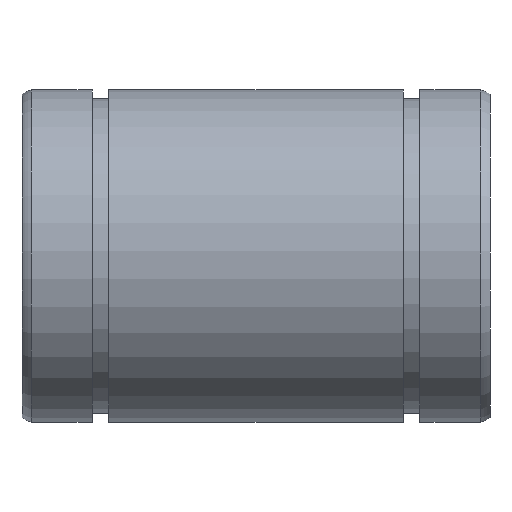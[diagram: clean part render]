
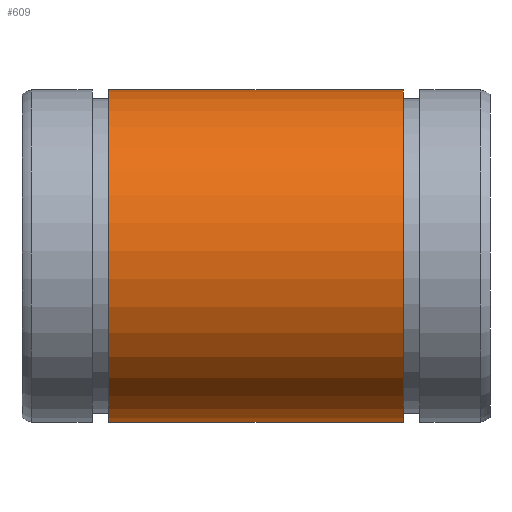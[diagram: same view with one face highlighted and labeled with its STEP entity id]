
A CAD part, front view. The second image highlights one B-rep face of the part: STEP entity #609.
In plain terms, the highlighted cylindrical face has radius 16 mm (diameter 32 mm), a partial arc.
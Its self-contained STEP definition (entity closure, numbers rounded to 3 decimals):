
#174=CARTESIAN_POINT('',(8.35,1.,-15.969));
#175=VERTEX_POINT('',#174);
#182=CARTESIAN_POINT('',(36.65,1.,-15.969));
#183=VERTEX_POINT('',#182);
#184=CARTESIAN_POINT('',(36.65,1.,-15.969));
#185=DIRECTION('',(-1.0,0.0,0.0));
#186=VECTOR('',#185,28.3);
#187=LINE('',#184,#186);
#188=EDGE_CURVE('',#183,#175,#187,.T.);
#230=CARTESIAN_POINT('',(36.65,-1.,-15.969));
#231=VERTEX_POINT('',#230);
#238=CARTESIAN_POINT('',(8.35,-1.,-15.969));
#239=VERTEX_POINT('',#238);
#240=CARTESIAN_POINT('',(8.35,-1.,-15.969));
#241=DIRECTION('',(1.0,0.0,0.0));
#242=VECTOR('',#241,28.3);
#243=LINE('',#240,#242);
#244=EDGE_CURVE('',#239,#231,#243,.T.);
#582=CARTESIAN_POINT('',(36.65,0.0,0.));
#583=DIRECTION('',(-1.0,0.0,0.0));
#584=DIRECTION('',(0.0,0.0,1.0));
#585=AXIS2_PLACEMENT_3D('',#582,#583,#584);
#586=CIRCLE('',#585,16.);
#587=EDGE_CURVE('',#231,#183,#586,.T.);
#592=CARTESIAN_POINT('',(22.5,0.0,0.));
#593=DIRECTION('',(-1.0,0.0,0.));
#594=DIRECTION('',(0.0,0.0,1.0));
#595=AXIS2_PLACEMENT_3D('',#592,#593,#594);
#596=CYLINDRICAL_SURFACE('',#595,16.);
#597=ORIENTED_EDGE('',*,*,#244,.T.);
#598=ORIENTED_EDGE('',*,*,#587,.T.);
#599=ORIENTED_EDGE('',*,*,#188,.T.);
#600=CARTESIAN_POINT('',(8.35,0.0,0.));
#601=DIRECTION('',(-1.0,0.0,0.0));
#602=DIRECTION('',(0.0,0.0,1.0));
#603=AXIS2_PLACEMENT_3D('',#600,#601,#602);
#604=CIRCLE('',#603,16.);
#605=EDGE_CURVE('',#239,#175,#604,.T.);
#606=ORIENTED_EDGE('',*,*,#605,.F.);
#607=EDGE_LOOP('',(#597,#598,#599,#606));
#608=FACE_OUTER_BOUND('',#607,.T.);
#609=ADVANCED_FACE('',(#608),#596,.T.);
